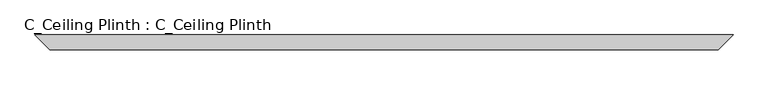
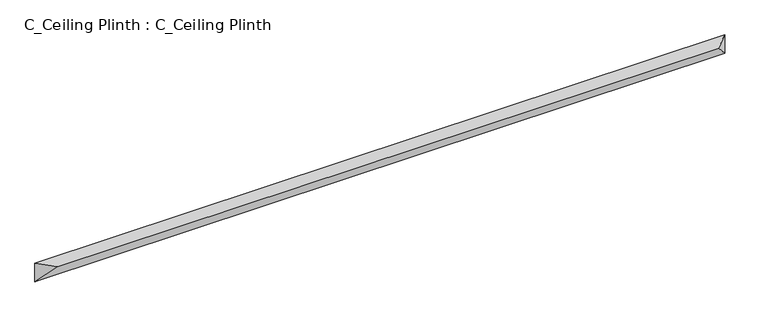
"""IFC4 building model written with IfcOpenShell, lengths in millimetres: proxy geometry, C_Ceiling Plinth : C_Ceiling Plinth."""

from ifc_helpers import new_model, si_unit, origin, place, context, project, spatial, faceted_brep, source, transform, mapped, element, save


def c_ceiling_plinth_c_ceiling_plinth_8b769437(model_context):
    return source(origin(), model_context, "Body", "Brep", [
        faceted_brep([(3606.8, 0.0, 0.0), (3606.8, 0.0, -101.6), (0.0, 0.0, -101.6), (0.0, 0.0, 0.0), (3530.6, -76.2, 0.0), (76.2, -76.2, 0.0)], [[[0, 1, 2, 3]], [[4, 0, 3, 5]], [[1, 4, 5, 2]], [[1, 0, 4]], [[3, 2, 5]]]),
    ])


if __name__ == "__main__":
    model = new_model("IFC4")
    model_context = context("Model", 3, world=origin())
    ifc_project = project(units=[si_unit("LENGTHUNIT", "METRE", prefix="MILLI")], contexts=[model_context])
    site = spatial("IfcSite", under=ifc_project)
    building = spatial("IfcBuilding", under=site)
    placement = place(None, origin())
    c_ceiling_plinth_c_ceiling_plinth_shape = c_ceiling_plinth_c_ceiling_plinth_8b769437(model_context)
    element("IfcBuildingElementProxy", 1, Name="C_Ceiling Plinth : C_Ceiling Plinth", ObjectType="C_Ceiling Plinth : C_Ceiling Plinth", at=placement, inside=building, context=model_context, shape_type="MappedRepresentation", body=[
        mapped(c_ceiling_plinth_c_ceiling_plinth_shape, transform((0.0, 0.0, 0.0), x_axis=(1.0, 0.0, 0.0), y_axis=(0.0, 1.0, 0.0), z_axis=(0.0, 0.0, 1.0))),
    ])
    save(model, "model.ifc")
